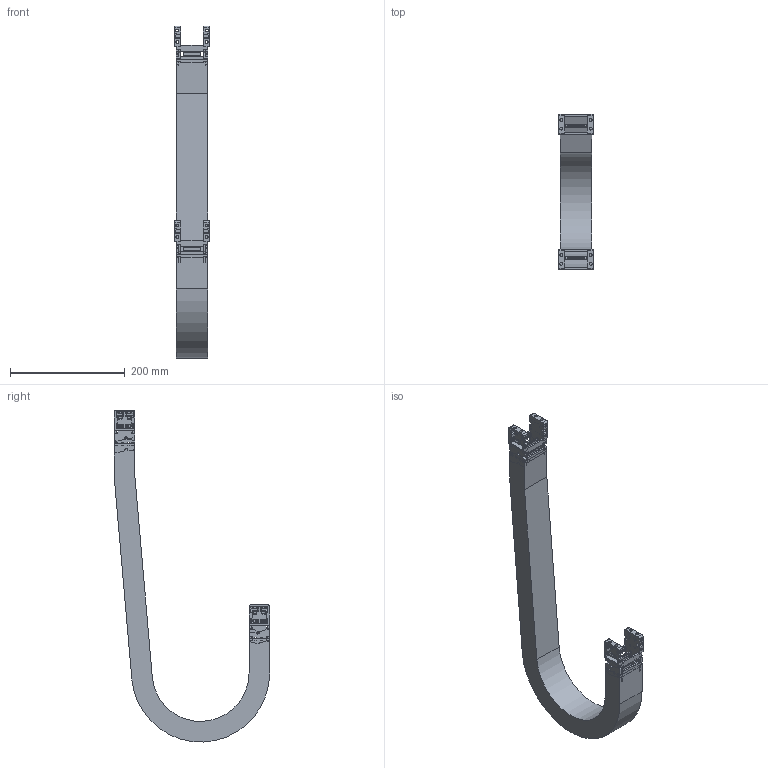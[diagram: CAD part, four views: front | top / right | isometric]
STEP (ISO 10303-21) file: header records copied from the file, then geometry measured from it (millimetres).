
FILE_DESCRIPTION((''),'2;1');
FILE_NAME('KST-25040-100_ASM','2017-12-05T',('KUNI004K'),(''),'PRO/ENGINEER BY PARAMETRIC TECHNOLOGY CORPORATION, 2015200','PRO/ENGINEER BY PARAMETRIC TECHNOLOGY CORPORATION, 2015200','');
FILE_SCHEMA(('AUTOMOTIVE_DESIGN { 1 0 10303 214 1 1 1 1 }'));
Length unit declared in the file: millimetre
Products named in the file (13): 25FBR; 25FBL; 25040C; KST25FBR_W040_ASM; 25100R; 25100L; 25040H; KST25040-100_1_ASM; KST25040_R100_BODY; 25MBR; 25MBL; KST25MBR_W040_ASM; KST-25040-100_ASM
Assembly tree (19 placements, depth 3):
  KST-25040-100_ASM
    KST25FBR_W040_ASM
      25FBR
      25FBL
      25040C  x2
    KST25040-100_1_ASM  x2
      25100R
      25100L
      25040C
      25040H
    KST25040_R100_BODY
    KST25MBR_W040_ASM
      25MBR
      25MBL
      25040C  x2
Bounding box: 60 x 271 x 579.19 mm (x, y, z)
Volume: 828013.6 mm3; surface area: 368777.4 mm2
Topology: 21 solids, 21 shells, 2468 faces, 6842 edges, 4432 vertices
Faces by surface type: plane 1266, cylinder 898, bspline 208, sphere 64, torus 32
Entity records: 68356 total; most frequent: CARTESIAN_POINT 15054, ORIENTED_EDGE 7252, DIRECTION 6364, PRESENTATION_STYLE_ASSIGNMENT 4902, STYLED_ITEM 4902, CURVE_STYLE 3626, EDGE_CURVE 3626, VECTOR 2398
